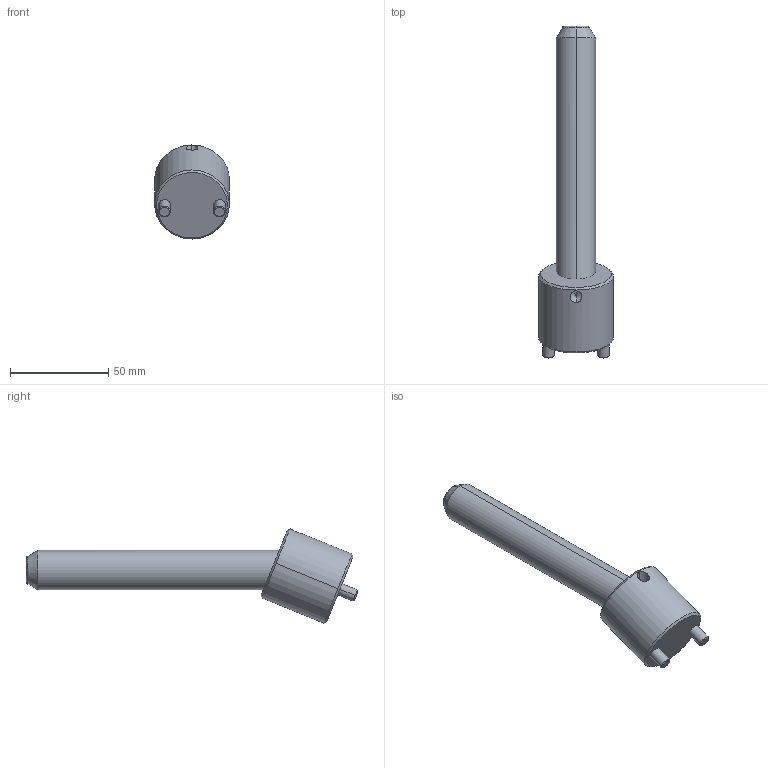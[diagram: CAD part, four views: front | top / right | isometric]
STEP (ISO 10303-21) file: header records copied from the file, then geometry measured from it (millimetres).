
FILE_DESCRIPTION(('CATIA V5 STEP Exchange'),'2;1');
FILE_NAME('C:\Users\Raffaele\Desktop\3D BOLEX\3D FILES CF BOLEX\19-INCLINED ASSEMBLY REF_CI\CI2220125.stp','2019-06-24T06:50:06+00:00',('none'),('none'),'CATIA Version 5 Release 20 GA (IN-10)','CATIA V5 STEP AP203','none');
FILE_SCHEMA(('CONFIG_CONTROL_DESIGN'));
Length unit declared in the file: millimetre
Products named in the file (1): CI2220125
Assembly tree (2 placements, depth 2):
  CI2220125
    #58
    #575
Bounding box: 38 x 169.16 x 47.97 mm (x, y, z)
Volume: 79406.9 mm3; surface area: 18974.8 mm2
Topology: 2 solids, 2 shells, 39 faces, 82 edges, 47 vertices
Faces by surface type: cone 14, cylinder 14, plane 7, torus 4
Entity records: 1515 total; most frequent: CARTESIAN_POINT 658, ORIENTED_EDGE 160, DIRECTION 144, EDGE_CURVE 80, AXIS2_PLACEMENT_3D 71, VERTEX_POINT 47, EDGE_LOOP 43, ADVANCED_FACE 39
